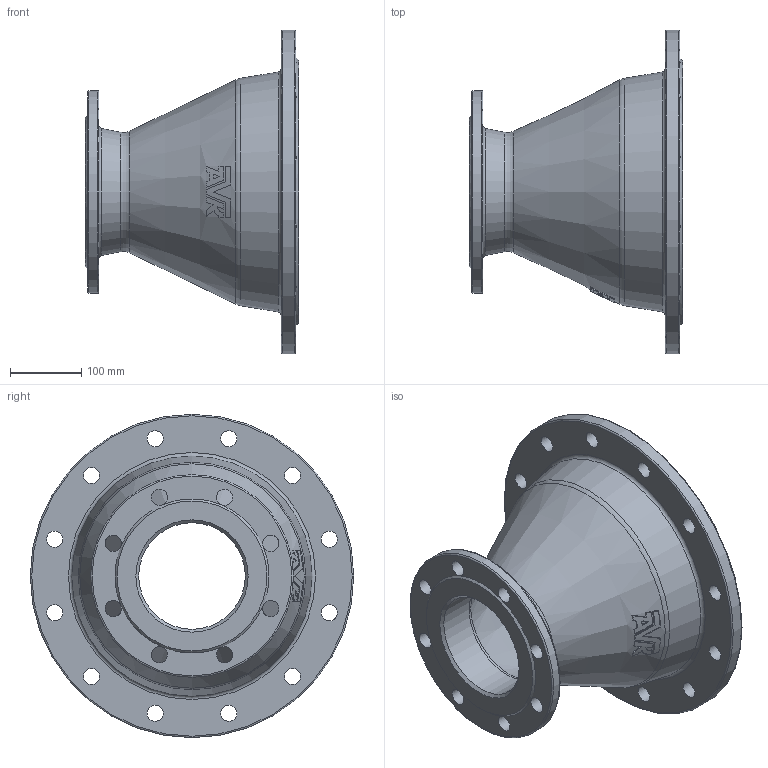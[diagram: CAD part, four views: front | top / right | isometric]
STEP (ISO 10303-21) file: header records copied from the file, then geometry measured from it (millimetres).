
FILE_DESCRIPTION (( 'STEP AP203' ), '1' );
FILE_NAME ('O_712_2210_DN300_DN150_0X_REV01.step', '2024-08-08T05:58:35', ( '' ), ( '' ), 'SwSTEP 2.0', 'SolidWorks 2022', '' );
FILE_SCHEMA (( 'CONFIG_CONTROL_DESIGN' ));
Length unit declared in the file: millimetre
Products named in the file (1): O_712_2210_DN300_DN150_0X_REV01
Bounding box: 300 x 455 x 455 mm (x, y, z)
Volume: 4763514.2 mm3; surface area: 745267.8 mm2
Topology: 1 solids, 1 shells, 89 faces, 276 edges, 177 vertices
Faces by surface type: plane 41, cylinder 26, cone 12, torus 10
Full cylindrical faces by diameter (mm): 23 x20, 150 x1, 285 x1, 300 x1, 455 x1
Entity records: 3058 total; most frequent: CARTESIAN_POINT 795, DIRECTION 453, ORIENTED_EDGE 418, EDGE_CURVE 209, AXIS2_PLACEMENT_3D 208, EDGE_LOOP 161, VERTEX_POINT 152, FACE_OUTER_BOUND 123
